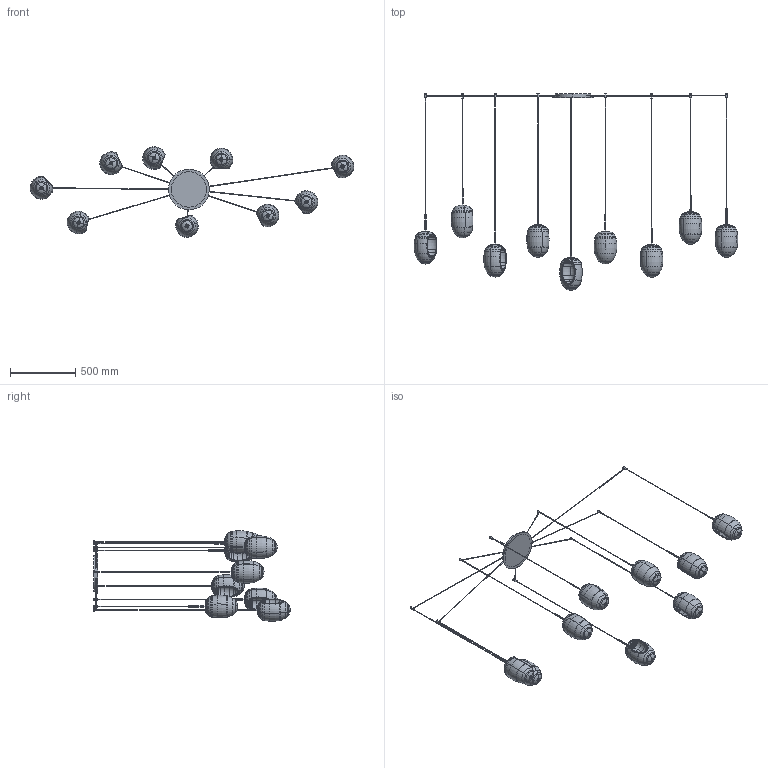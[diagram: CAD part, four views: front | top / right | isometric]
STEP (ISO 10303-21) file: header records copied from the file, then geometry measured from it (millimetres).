
FILE_DESCRIPTION (( 'STEP AP203' ), '1' );
FILE_NAME ('FOS09_9 sospensione.STEP', '2025-05-19T07:10:35', ( '' ), ( '' ), 'SwSTEP 2.0', 'SolidWorks 2022', '' );
FILE_SCHEMA (( 'CONFIG_CONTROL_DESIGN' ));
Length unit declared in the file: millimetre
Products named in the file (16): Cavo x Fos_H=1900; Cavo x Fos_H=1700; Cavo x Fos_H=1850; Cavo x Fos_H=1600; Porta lampada definitivo FOS; FOSxx-01-FOS_lampada completa con cavo_H=1700; FOS09_9 sospensione; FOSxx-01-FOS_lampada completa con cavo_H=1600; FOSxx-01-FOS_rosone+cavi_FOS_9 sospensione<A macchina>; FOSxx-01-FOS_lampada completa con cavo_H=1850; FOS parte in vetro; Cavo x Fos_H=1500; Cavo x Fos_H=1750; FOSxx-01-FOS_lampada completa con cavo_H=1900; FOSxx-01-FOS_lampada completa con cavo_H=1750; FOSxx-01-FOS_lampada completa con cavo_H=1500
Assembly tree (28 placements, depth 3):
  FOS09_9 sospensione
    FOSxx-01-FOS_rosone+cavi_FOS_9 sospensione<A macchina>
    FOSxx-01-FOS_lampada completa con cavo_H=1600  x2
      Porta lampada definitivo FOS
      FOS parte in vetro
      Cavo x Fos_H=1600
    FOSxx-01-FOS_lampada completa con cavo_H=1850
      Porta lampada definitivo FOS
      FOS parte in vetro
      Cavo x Fos_H=1850
    FOSxx-01-FOS_lampada completa con cavo_H=1500
      Porta lampada definitivo FOS
      FOS parte in vetro
      Cavo x Fos_H=1500
    FOSxx-01-FOS_lampada completa con cavo_H=1700  x2
      Porta lampada definitivo FOS
      FOS parte in vetro
      Cavo x Fos_H=1700
    FOSxx-01-FOS_lampada completa con cavo_H=1750  x2
      Porta lampada definitivo FOS
      FOS parte in vetro
      Cavo x Fos_H=1750
    FOSxx-01-FOS_lampada completa con cavo_H=1900
      Porta lampada definitivo FOS
      FOS parte in vetro
      Cavo x Fos_H=1900
Bounding box: 2471.65 x 1500.54 x 691.74 mm (x, y, z)
Volume: 5454859 mm3; surface area: 3170943.2 mm2
Topology: 91 solids, 91 shells, 2074 faces, 4942 edges, 3060 vertices
Faces by surface type: torus 729, plane 542, cylinder 416, bspline 198, cone 189
Entity records: 18211 total; most frequent: CARTESIAN_POINT 8647, DIRECTION 1664, ORIENTED_EDGE 1514, EDGE_CURVE 757, AXIS2_PLACEMENT_3D 712, VERTEX_POINT 478, CIRCLE 358, EDGE_LOOP 357
